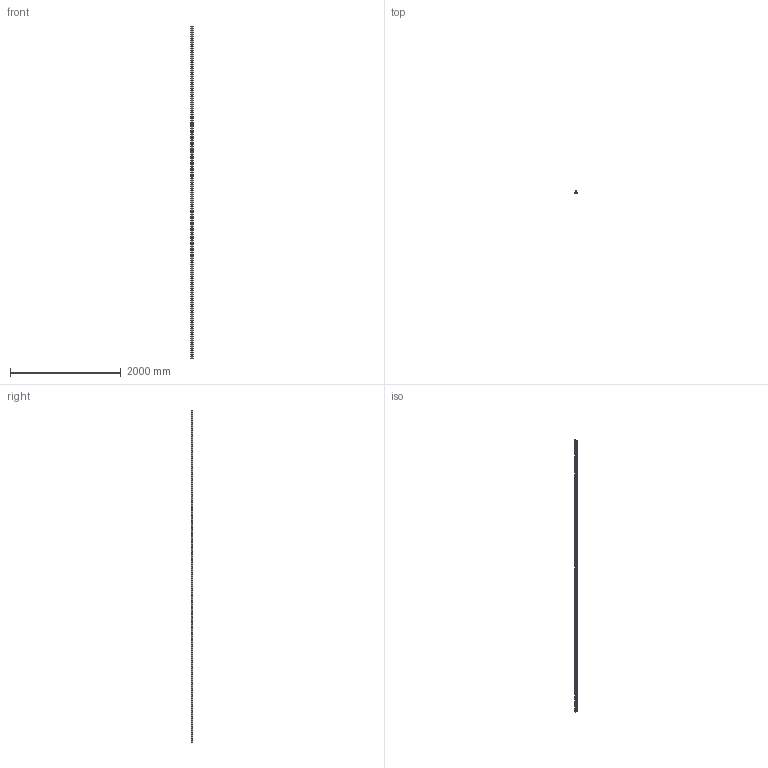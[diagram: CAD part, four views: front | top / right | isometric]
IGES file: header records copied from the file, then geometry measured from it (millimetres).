
Start section: SolidWorks IGES file using analytic representation for surfaces
Global section: file name: D:\SOLIDWORKS PROEKTI\freelance cnc cat\CETVRTA SERIJA\SBR\SBR16.IGS; native system: SolidWorks 2016; preprocessor: SolidWorks 2016; author: User; date: 170811.200042; units: millimetre
Bounding box: 40 x 33 x 6000 mm (x, y, z)
Surface area: 900565.8 mm2 (no closed solid volume)
Topology: 0 solids, 0 shells, 1520 faces, 28135 edges, 32224 vertices
Faces by surface type: revolution 998, bspline 522
